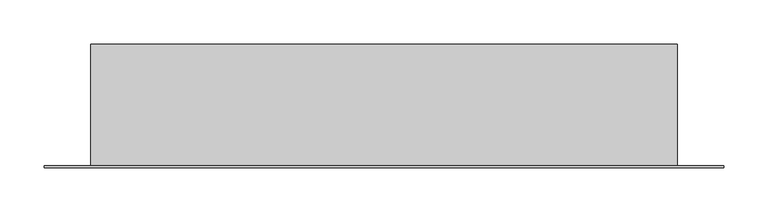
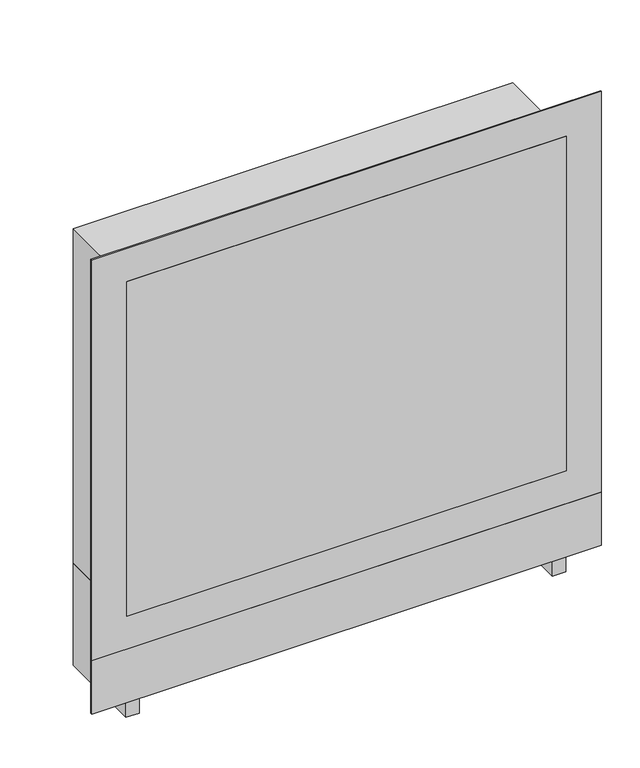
"""IFC4 building model written with IfcOpenShell, lengths in millimetres: valve geometry, PL AT Cabinet under plaster : FT-VK2/8 5-9 manifold loops."""

from ifc_helpers import new_model, si_unit, frame, origin, origin_with_axes, place, context, project, spatial, polyline, outline, extrude, source, transform, mapped, element, save


def valve_5bd855b2(model_context):
    return source(origin(), model_context, "Body", "SweptSolid", [
        extrude(outline(polyline([(-312.1040906, 2.0), (-332.1040906, 2.0), (-332.1040906, 140.0), (-312.1040906, 140.0), (-312.1040906, 2.0)])), origin_with_axes(), (0.0, 0.0, 1.0), 162.8959094),
        extrude(outline(polyline([(332.1040906, 2.0), (312.1040906, 2.0), (312.1040906, 140.0), (332.1040906, 140.0), (332.1040906, 2.0)])), origin_with_axes(), (0.0, 0.0, 1.0), 162.8959094),
        extrude(outline(polyline([(385.0, 0.0), (-385.0, 0.0), (-385.0, 2.0), (385.0, 2.0), (385.0, 0.0)])), frame((0.0, 0.0, 25.0), z_axis=(0.0, 0.0, 1.0), x_axis=(1.0, 0.0, 0.0)), (0.0, 0.0, 1.0), 85.0),
        extrude(outline(polyline([(332.1040906, 0.0), (-332.1040906, 0.0), (-332.1040906, 140.0), (332.1040906, 140.0), (332.1040906, 0.0)])), frame((0.0, 0.0, 162.8959094), z_axis=(0.0, 0.0, 1.0), x_axis=(1.0, 0.0, 0.0)), (0.0, 0.0, 1.0), 534.2081812),
        extrude(outline(polyline([(750.0, 385.0), (750.0, -385.0), (110.0, -385.0), (110.0, 385.0), (750.0, 385.0)]), holes=[polyline([(162.8959094, -332.1040906), (697.1040906, -332.1040906), (697.1040906, 332.1040906), (162.8959094, 332.1040906), (162.8959094, -332.1040906)])]), frame((0.0, 0.0, 0.0), z_axis=(0.0, 1.0, 0.0), x_axis=(0.0, 0.0, 1.0)), (0.0, 0.0, 1.0), 2.0),
    ])


if __name__ == "__main__":
    model = new_model("IFC4")
    model_context = context("Model", 3, world=origin())
    ifc_project = project(units=[si_unit("LENGTHUNIT", "METRE", prefix="MILLI")], contexts=[model_context])
    site = spatial("IfcSite", under=ifc_project)
    building = spatial("IfcBuilding", under=site)
    placement = place(None, origin())
    valve_shape = valve_5bd855b2(model_context)
    element("IfcValve", 1, ObjectType="PL AT Cabinet under plaster : FT-VK2/8 5-9 manifold loops", at=placement, inside=building, context=model_context, shape_type="MappedRepresentation", body=[
        mapped(valve_shape, transform((0.0, 0.0, 0.0), x_axis=(1.0, 0.0, 0.0), y_axis=(0.0, 1.0, 0.0), z_axis=(0.0, 0.0, 1.0))),
    ])
    save(model, "model.ifc")
